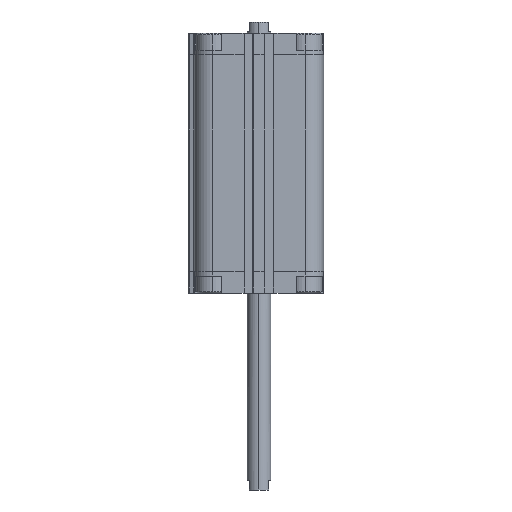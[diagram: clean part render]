
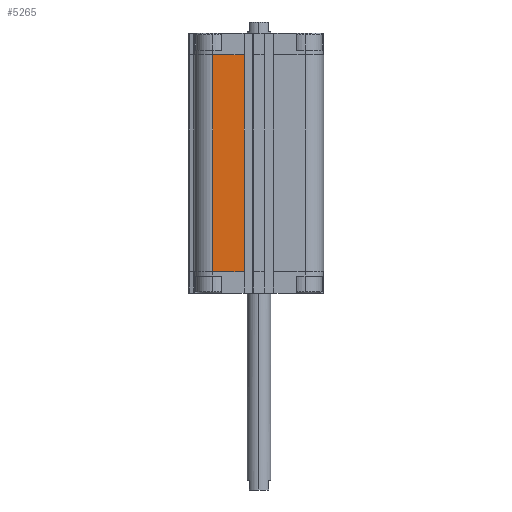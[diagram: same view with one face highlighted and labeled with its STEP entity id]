
A CAD part, left-side view. The second image highlights one B-rep face of the part: STEP entity #5265.
In plain terms, the highlighted planar face has unit normal (-1, 0, 0).
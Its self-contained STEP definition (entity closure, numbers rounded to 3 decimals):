
#7 = CARTESIAN_POINT ( 'NONE',  ( -43.5, 10.05, -160.5 ) ) ;
#115 = VECTOR ( 'NONE', #1753, 1000. ) ;
#270 = CARTESIAN_POINT ( 'NONE',  ( -43.5, 10.05, -160.5 ) ) ;
#566 = EDGE_CURVE ( 'NONE', #11469, #6888, #854, .T. ) ;
#854 = LINE ( 'NONE', #15613, #11043 ) ;
#1753 = DIRECTION ( 'NONE',  ( 0., -1., 0. ) ) ;
#2114 = ORIENTED_EDGE ( 'NONE', *, *, #12574, .T. ) ;
#4513 = PLANE ( 'NONE',  #11516 ) ;
#4794 = CARTESIAN_POINT ( 'NONE',  ( -43.5, 31., -160.5 ) ) ;
#5265 = ADVANCED_FACE ( 'NONE', ( #11873 ), #4513, .T. ) ;
#5508 = VECTOR ( 'NONE', #12752, 1000. ) ;
#5656 = CARTESIAN_POINT ( 'NONE',  ( -43.5, 31., -160.5 ) ) ;
#5820 = ORIENTED_EDGE ( 'NONE', *, *, #566, .F. ) ;
#6605 = DIRECTION ( 'NONE',  ( 0., 0., 1. ) ) ;
#6888 = VERTEX_POINT ( 'NONE', #19309 ) ;
#7421 = VERTEX_POINT ( 'NONE', #7 ) ;
#9193 = VERTEX_POINT ( 'NONE', #10565 ) ;
#9275 = LINE ( 'NONE', #15320, #115 ) ;
#10227 = VECTOR ( 'NONE', #10841, 1000. ) ;
#10466 = CARTESIAN_POINT ( 'NONE',  ( -43.5, 31., -160.5 ) ) ;
#10565 = CARTESIAN_POINT ( 'NONE',  ( -43.5, 10.05, -14.5 ) ) ;
#10841 = DIRECTION ( 'NONE',  ( 0., -1., 0. ) ) ;
#11043 = VECTOR ( 'NONE', #6605, 1000. ) ;
#11469 = VERTEX_POINT ( 'NONE', #5656 ) ;
#11516 = AXIS2_PLACEMENT_3D ( 'NONE', #10466, #19506, #14834 ) ;
#11873 = FACE_OUTER_BOUND ( 'NONE', #15787, .T. ) ;
#12574 = EDGE_CURVE ( 'NONE', #11469, #7421, #15398, .T. ) ;
#12752 = DIRECTION ( 'NONE',  ( 0., 0., 1. ) ) ;
#12863 = EDGE_CURVE ( 'NONE', #6888, #9193, #9275, .T. ) ;
#13753 = ORIENTED_EDGE ( 'NONE', *, *, #12863, .F. ) ;
#14834 = DIRECTION ( 'NONE',  ( 0., -1., 0. ) ) ;
#15320 = CARTESIAN_POINT ( 'NONE',  ( -43.5, 31., -14.5 ) ) ;
#15398 = LINE ( 'NONE', #4794, #10227 ) ;
#15613 = CARTESIAN_POINT ( 'NONE',  ( -43.5, 31., -160.5 ) ) ;
#15692 = EDGE_CURVE ( 'NONE', #7421, #9193, #17207, .T. ) ;
#15787 = EDGE_LOOP ( 'NONE', ( #13753, #5820, #2114, #18942 ) ) ;
#17207 = LINE ( 'NONE', #270, #5508 ) ;
#18942 = ORIENTED_EDGE ( 'NONE', *, *, #15692, .T. ) ;
#19309 = CARTESIAN_POINT ( 'NONE',  ( -43.5, 31., -14.5 ) ) ;
#19506 = DIRECTION ( 'NONE',  ( -1., 0., 0. ) ) ;
